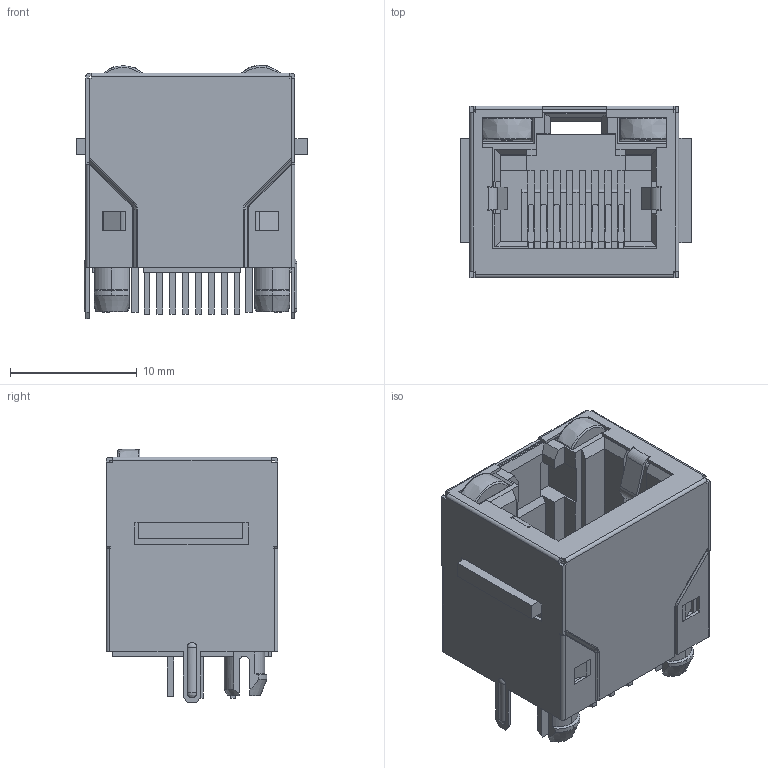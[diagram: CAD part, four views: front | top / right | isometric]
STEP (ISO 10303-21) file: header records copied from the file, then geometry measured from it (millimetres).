
FILE_DESCRIPTION (( 'STEP AP214' ), '1' );
FILE_NAME ('ACC-M-RJHSE-3381-A1-REVT1.STEP', '2018-12-19T02:58:49', ( '' ), ( '' ), 'SwSTEP 2.0', 'SolidWorks 2018', '' );
FILE_SCHEMA (( 'AUTOMOTIVE_DESIGN' ));
Length unit declared in the file: inch
Products named in the file (1): ACC-M-RJHSE-3381-A1-REVT1
Bounding box: 18.29 x 13.56 x 20.06 mm (x, y, z)
Volume: 2011 mm3; surface area: 4657 mm2
Topology: 1 solids, 1 shells, 1279 faces, 3835 edges, 2477 vertices
Faces by surface type: plane 894, cylinder 309, bspline 36, sphere 25, cone 15
Entity records: 60822 total; most frequent: CARTESIAN_POINT 9766, ORIENTED_EDGE 7626, DIRECTION 6761, EDGE_CURVE 3813, VECTOR 2985, LINE 2985, VERTEX_POINT 2473, AXIS2_PLACEMENT_3D 1888
